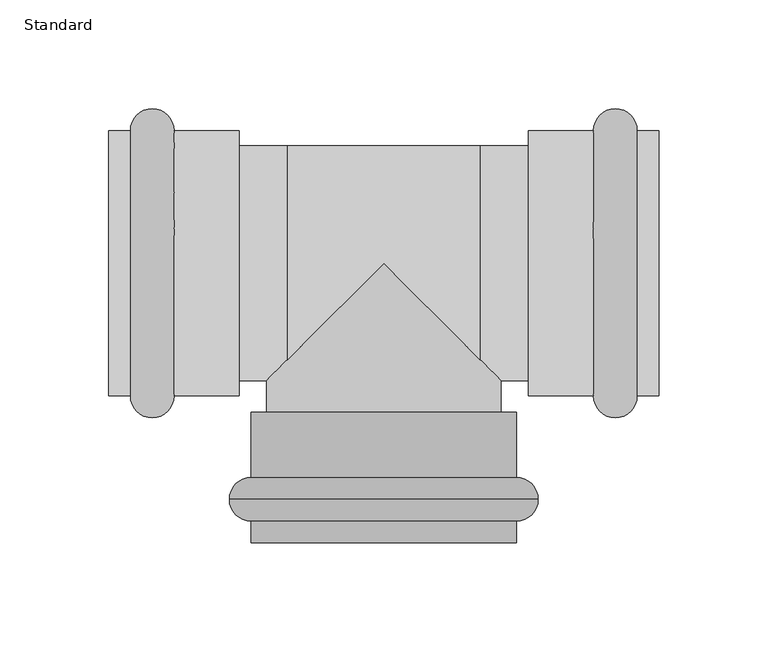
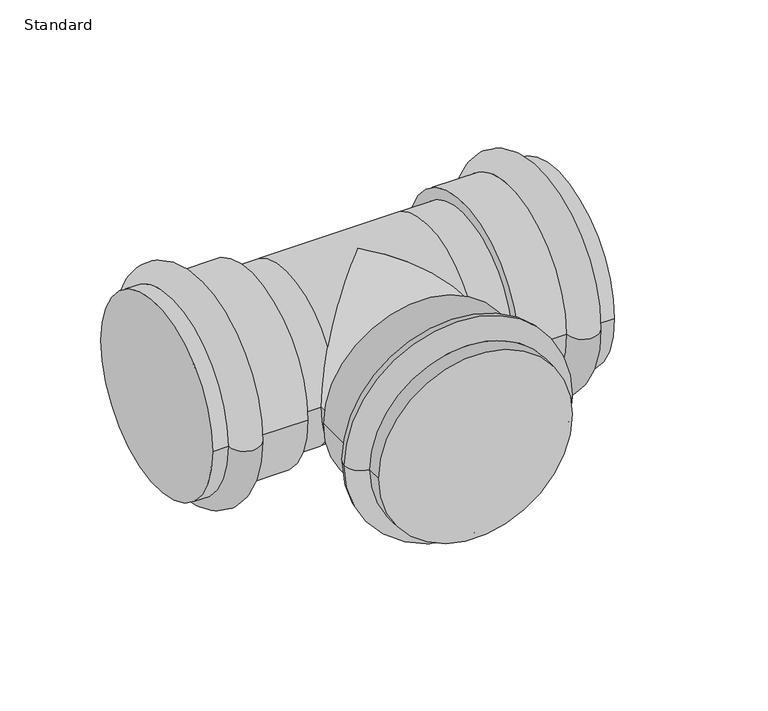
"""IFC4 building model written with IfcOpenShell, lengths in millimetres: pipe fitting geometry, T-Stück Edelstahl - Press : Standard."""

from ifc_helpers import new_model, si_unit, point, frame, origin, place, context, project, spatial, circle_curve, ellipse_curve, trimmed, source, transform, mapped, element, save
from ifc_brep_helpers import plane_surface, cylinder_surface, revolved_surface, advanced_brep


def standard_b74197ae(model_context):
    return source(origin(), model_context, "Body", "AdvancedBrep", [
        advanced_brep(
        [(-44.3333333, 54.0, 0.0), (44.3333333, 54.0, 0.0), (44.3333333, -44.3333333, -30.831081), (0.0, 0.0, -54.0), (-44.3333333, -44.3333333, -30.831081), (-44.3333333, -44.3333333, 30.831081), (0.0, 0.0, 54.0), (44.3333333, -44.3333333, 30.831081), (54.0, -54.0, 0.0), (54.0, -68.5, 0.0), (-54.0, -68.5, 0.0), (-54.0, -54.0, 0.0), (-66.5, 54.0, 0.0), (-66.5, -54.0, 0.0), (66.5, 54.0, 0.0), (66.5, -54.0, 0.0), (-116.5, 61.0, 0.0), (-96.5, 61.0, 0.0), (-96.5, -61.0, 0.0), (-116.5, -61.0, 0.0), (-126.5, -61.0, 0.0), (-126.5, 61.0, 0.0), (-66.5, -61.0, 0.0), (-66.5, 61.0, 0.0), (96.5, 61.0, 0.0), (116.5, 61.0, 0.0), (116.5, -61.0, 0.0), (96.5, -61.0, 0.0), (126.5, -61.0, 0.0), (126.5, 61.0, 0.0), (66.5, -61.0, 0.0), (66.5, 61.0, 0.0), (-71.0, -108.5, 0.0), (71.0, -108.5, 0.0), (61.0, -118.5, 0.0), (-61.0, -118.5, 0.0), (-61.0, -98.5, 0.0), (61.0, -98.5, 0.0), (61.0, -128.5, 0.0), (-61.0, -128.5, 0.0), (61.0, -68.5, 0.0), (-61.0, -68.5, 0.0)],
        [
            (0, 1),
            (1, 2, circle_curve(frame((44.3333333, 0.0, 0.0), z_axis=(-1.0, 0.0, 0.0), x_axis=(0.0, 1.0, 0.0)), 54.0)),
            (2, 3, ellipse_curve(frame((0.0, 0.0, 0.0), z_axis=(0.707106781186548, 0.7071067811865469, 0.0), x_axis=(0.707106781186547, -0.7071067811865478, 0.0)), 76.3675324, 54.0)),
            (3, 4, ellipse_curve(frame((0.0, 0.0, 0.0), z_axis=(-0.7071067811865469, 0.707106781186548, 0.0), x_axis=(0.7071067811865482, 0.7071067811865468, 0.0)), 76.3675324, 54.0)),
            (4, 0, circle_curve(frame((-44.3333333, 0.0, 0.0), z_axis=(1.0, 0.0, 0.0), x_axis=(0.0, 1.0, 0.0)), 54.0)),
            (0, 5, circle_curve(frame((-44.3333333, 0.0, 0.0), z_axis=(1.0, 0.0, 0.0), x_axis=(0.0, 1.0, 0.0)), 54.0)),
            (5, 6, ellipse_curve(frame((0.0, 0.0, 0.0), z_axis=(-0.7071067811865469, 0.707106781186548, 0.0), x_axis=(0.7071067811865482, 0.7071067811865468, 0.0)), 76.3675324, 54.0)),
            (6, 7, ellipse_curve(frame((0.0, 0.0, 0.0), z_axis=(0.707106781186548, 0.7071067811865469, 0.0), x_axis=(0.707106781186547, -0.7071067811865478, 0.0)), 76.3675324, 54.0)),
            (7, 1, circle_curve(frame((44.3333333, 0.0, 0.0), z_axis=(-1.0, 0.0, 0.0), x_axis=(0.0, 1.0, 0.0)), 54.0)),
            (8, 9),
            (9, 10, circle_curve(frame((0.0, -68.5, 0.0), z_axis=(0.0, 1.0, 0.0), x_axis=(1.0, 0.0, 0.0)), 54.0)),
            (10, 11),
            (11, 4, ellipse_curve(frame((0.0, 0.0, 0.0), z_axis=(0.7071067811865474, -0.7071067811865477, 0.0), x_axis=(-0.7071067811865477, -0.7071067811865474, 0.0)), 76.3675324, 54.0)),
            (2, 8, ellipse_curve(frame((0.0, 0.0, 0.0), z_axis=(-0.707106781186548, -0.7071067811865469, 0.0), x_axis=(0.7071067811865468, -0.7071067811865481, 0.0)), 76.3675324, 54.0)),
            (8, 7, ellipse_curve(frame((0.0, 0.0, 0.0), z_axis=(-0.707106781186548, -0.7071067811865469, 0.0), x_axis=(0.7071067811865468, -0.7071067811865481, 0.0)), 76.3675324, 54.0)),
            (5, 11, ellipse_curve(frame((0.0, 0.0, 0.0), z_axis=(0.7071067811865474, -0.7071067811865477, 0.0), x_axis=(-0.7071067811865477, -0.7071067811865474, 0.0)), 76.3675324, 54.0)),
            (10, 9, circle_curve(frame((0.0, -68.5, 0.0), z_axis=(0.0, 1.0, 0.0), x_axis=(1.0, 0.0, 0.0)), 54.0)),
            (12, 0),
            (11, 13),
            (13, 12, circle_curve(frame((-66.5, 0.0, 0.0), z_axis=(1.0, 0.0, 0.0), x_axis=(0.0, 0.0, -1.0)), 54.0)),
            (12, 13, circle_curve(frame((-66.5, 0.0, 0.0), z_axis=(1.0, 0.0, 0.0), x_axis=(0.0, 0.0, 1.0)), 54.0)),
            (1, 14),
            (14, 15, circle_curve(frame((66.5, 0.0, 0.0), z_axis=(-1.0, 0.0, 0.0), x_axis=(0.0, 0.0, -1.0)), 54.0)),
            (15, 8),
            (15, 14, circle_curve(frame((66.5, 0.0, 0.0), z_axis=(-1.0, 0.0, 0.0), x_axis=(0.0, 0.0, 1.0)), 54.0)),
            (16, 17, circle_curve(frame((-106.5, 61.0, 0.0), z_axis=(0.0, 0.0, -1.0), x_axis=(1.0, 0.0, 0.0)), 10.0)),
            (17, 18, circle_curve(frame((-96.5, 0.0, 0.0), z_axis=(-1.0, 0.0, 0.0), x_axis=(0.0, 1.0, 0.0)), 61.0)),
            (18, 19, circle_curve(frame((-106.5, -61.0, 0.0), z_axis=(0.0, 0.0, -1.0), x_axis=(1.0, 0.0, 0.0)), 10.0)),
            (19, 16, circle_curve(frame((-116.5, 0.0, 0.0), z_axis=(1.0, 0.0, 0.0), x_axis=(0.0, 1.0, 0.0)), 61.0)),
            (16, 19, circle_curve(frame((-116.5, 0.0, 0.0), z_axis=(1.0, 0.0, 0.0), x_axis=(0.0, 1.0, 0.0)), 61.0)),
            (18, 17, circle_curve(frame((-96.5, 0.0, 0.0), z_axis=(-1.0, 0.0, 0.0), x_axis=(0.0, 1.0, 0.0)), 61.0)),
            (20, 21, circle_curve(frame((-126.5, 0.0, 0.0), z_axis=(-1.0, 0.0, 0.0), x_axis=(0.0, 1.0, 0.0)), 61.0)),
            (21, 20, circle_curve(frame((-126.5, 0.0, 0.0), z_axis=(-1.0, 0.0, 0.0), x_axis=(0.0, 1.0, 0.0)), 61.0)),
            (22, 23, circle_curve(frame((-66.5, 0.0, 0.0), z_axis=(1.0, 0.0, 0.0), x_axis=(0.0, 1.0, 0.0)), 61.0)),
            (23, 22, circle_curve(frame((-66.5, 0.0, 0.0), z_axis=(1.0, 0.0, 0.0), x_axis=(0.0, 1.0, 0.0)), 61.0)),
            (21, 16),
            (19, 20),
            (22, 18),
            (17, 23),
            (24, 25, circle_curve(frame((106.5, 61.0, 0.0), z_axis=(0.0, 0.0, -1.0), x_axis=(1.0, 0.0, 0.0)), 10.0)),
            (25, 26, circle_curve(frame((116.5, 0.0, 0.0), z_axis=(-1.0, 0.0, 0.0), x_axis=(0.0, 1.0, 0.0)), 61.0)),
            (26, 27, circle_curve(frame((106.5, -61.0, 0.0), z_axis=(0.0, 0.0, -1.0), x_axis=(1.0, 0.0, 0.0)), 10.0)),
            (27, 24, circle_curve(frame((96.5, 0.0, 0.0), z_axis=(1.0, 0.0, 0.0), x_axis=(0.0, 1.0, 0.0)), 61.0)),
            (24, 27, circle_curve(frame((96.5, 0.0, 0.0), z_axis=(1.0, 0.0, 0.0), x_axis=(0.0, 1.0, 0.0)), 61.0)),
            (26, 25, circle_curve(frame((116.5, 0.0, 0.0), z_axis=(-1.0, 0.0, 0.0), x_axis=(0.0, 1.0, 0.0)), 61.0)),
            (28, 29, circle_curve(frame((126.5, 0.0, 0.0), z_axis=(1.0, 0.0, 0.0), x_axis=(0.0, 1.0, 0.0)), 61.0)),
            (29, 28, circle_curve(frame((126.5, 0.0, 0.0), z_axis=(1.0, 0.0, 0.0), x_axis=(0.0, 1.0, 0.0)), 61.0)),
            (30, 31, circle_curve(frame((66.5, 0.0, 0.0), z_axis=(-1.0, 0.0, 0.0), x_axis=(0.0, 1.0, 0.0)), 61.0)),
            (31, 30, circle_curve(frame((66.5, 0.0, 0.0), z_axis=(-1.0, 0.0, 0.0), x_axis=(0.0, 1.0, 0.0)), 61.0)),
            (28, 26),
            (25, 29),
            (31, 24),
            (27, 30),
            (32, 33, circle_curve(frame((0.0, -108.5, 0.0), z_axis=(0.0, -1.0, 0.0), x_axis=(1.0, 0.0, 0.0)), 71.0)),
            (33, 34, circle_curve(frame((61.0, -108.5, 0.0), z_axis=(0.0, 0.0, -1.0), x_axis=(1.0, 0.0, 0.0)), 10.0)),
            (34, 35, circle_curve(frame((0.0, -118.5, 0.0), z_axis=(0.0, 1.0, 0.0), x_axis=(1.0, 0.0, 0.0)), 61.0)),
            (35, 32, circle_curve(frame((-61.0, -108.5, 0.0), z_axis=(0.0, 0.0, -1.0), x_axis=(-1.0, 0.0, 0.0)), 10.0)),
            (33, 32, circle_curve(frame((0.0, -108.5, 0.0), z_axis=(0.0, -1.0, 0.0), x_axis=(1.0, 0.0, 0.0)), 71.0)),
            (35, 34, circle_curve(frame((0.0, -118.5, 0.0), z_axis=(0.0, 1.0, 0.0), x_axis=(1.0, 0.0, 0.0)), 61.0)),
            (32, 36, circle_curve(frame((-61.0, -108.5, 0.0), z_axis=(0.0, 0.0, -1.0), x_axis=(-1.0, 0.0, 0.0)), 10.0)),
            (36, 37, circle_curve(frame((0.0, -98.5, 0.0), z_axis=(0.0, -1.0, 0.0), x_axis=(1.0, 0.0, 0.0)), 61.0)),
            (37, 33, circle_curve(frame((61.0, -108.5, 0.0), z_axis=(0.0, 0.0, -1.0), x_axis=(1.0, 0.0, 0.0)), 10.0)),
            (37, 36, circle_curve(frame((0.0, -98.5, 0.0), z_axis=(0.0, -1.0, 0.0), x_axis=(1.0, 0.0, 0.0)), 61.0)),
            (38, 39, circle_curve(frame((0.0, -128.5, 0.0), z_axis=(0.0, -1.0, 0.0), x_axis=(-1.0, 0.0, 0.0)), 61.0)),
            (39, 38, circle_curve(frame((0.0, -128.5, 0.0), z_axis=(0.0, -1.0, 0.0), x_axis=(-1.0, 0.0, 0.0)), 61.0)),
            (40, 41, circle_curve(frame((0.0, -68.5, 0.0), z_axis=(0.0, 1.0, 0.0), x_axis=(-1.0, 0.0, 0.0)), 61.0)),
            (41, 40, circle_curve(frame((0.0, -68.5, 0.0), z_axis=(0.0, 1.0, 0.0), x_axis=(-1.0, 0.0, 0.0)), 61.0)),
            (39, 35),
            (34, 38),
            (40, 37),
            (36, 41),
        ],
        [
            cylinder_surface(frame((-44.3333333, 0.0, 0.0), z_axis=(1.0, 0.0, 0.0), x_axis=(0.0, 1.0, 0.0)), 54.0),
            cylinder_surface(frame((0.0, 0.0, 0.0), z_axis=(0.0, -1.0, 0.0), x_axis=(1.0, 0.0, 0.0)), 54.0),
            cylinder_surface(frame((-66.5, 0.0, 0.0), z_axis=(1.0, 0.0, 0.0), x_axis=(0.0, 0.0, -1.0)), 54.0),
            cylinder_surface(frame((-66.5, 0.0, 0.0), z_axis=(1.0, 0.0, 0.0), x_axis=(0.0, 0.0, 1.0)), 54.0),
            cylinder_surface(frame((44.3333333, 0.0, 0.0), z_axis=(1.0, 0.0, 0.0), x_axis=(0.0, 0.0, -1.0)), 54.0),
            cylinder_surface(frame((44.3333333, 0.0, 0.0), z_axis=(1.0, 0.0, 0.0), x_axis=(0.0, 0.0, 1.0)), 54.0),
            revolved_surface(trimmed(ellipse_curve(frame((-106.5, 61.0, 0.0), z_axis=(0.0, 0.0, 1.0), x_axis=(1.0, 0.0, 0.0)), 10.0, 10.0), [point((-96.5, 61.0, 0.0))], [point((-116.5, 61.0, 0.0))], True, "CARTESIAN"), (-135.5750001, 0.0, 0.0), (-1.0, 0.0, 0.0)),
            plane_surface(frame((-126.5, 61.0, 0.0), z_axis=(-1.0, 0.0, 0.0), x_axis=(0.0, 0.0, -1.0))),
            plane_surface(frame((-66.5, 61.0, 0.0), z_axis=(1.0, 0.0, 0.0), x_axis=(0.0, 0.0, 1.0))),
            cylinder_surface(frame((-126.5, 0.0, 0.0), z_axis=(1.0, 0.0, 0.0), x_axis=(0.0, 1.0, 0.0)), 61.0),
            revolved_surface(trimmed(ellipse_curve(frame((106.5, 61.0, 0.0), z_axis=(0.0, 0.0, 1.0), x_axis=(1.0, 0.0, 0.0)), 10.0, 10.0), [point((116.5, 61.0, 0.0))], [point((96.5, 61.0, 0.0))], True, "CARTESIAN"), (131.592996, 0.0, 0.0), (-1.0, 0.0, 0.0)),
            plane_surface(frame((126.5, 61.0, 0.0), z_axis=(1.0, 0.0, 0.0), x_axis=(0.0, 0.0, 1.0))),
            plane_surface(frame((66.5, 61.0, 0.0), z_axis=(-1.0, 0.0, 0.0), x_axis=(0.0, 0.0, -1.0))),
            cylinder_surface(frame((66.5, 0.0, 0.0), z_axis=(1.0, 0.0, 0.0), x_axis=(0.0, 1.0, 0.0)), 61.0),
            revolved_surface(trimmed(ellipse_curve(frame((61.0, -108.5, 0.0), z_axis=(0.0, 0.0, 1.0), x_axis=(1.0, 0.0, 0.0)), 10.0, 10.0), [point((51.0, -108.5, 0.0))], [point((71.0, -108.5, 0.0))], True, "CARTESIAN"), (0.0, -71.7908327, 0.0), (0.0, 1.0, 0.0)),
            revolved_surface(trimmed(ellipse_curve(frame((61.0, -108.5, 0.0), z_axis=(0.0, 0.0, 1.0), x_axis=(1.0, 0.0, 0.0)), 10.0, 10.0), [point((71.0, -108.5, 0.0))], [point((51.0, -108.5, 0.0))], True, "CARTESIAN"), (0.0, -71.7908327, 0.0), (0.0, 1.0, 0.0)),
            plane_surface(frame((-61.0, -128.5, 0.0), z_axis=(0.0, -1.0, 0.0), x_axis=(0.0, 0.0, -1.0))),
            plane_surface(frame((-61.0, -68.5, 0.0), z_axis=(0.0, 1.0, 0.0), x_axis=(0.0, 0.0, 1.0))),
            cylinder_surface(frame((0.0, -128.5, 0.0), z_axis=(0.0, 1.0, 0.0), x_axis=(-1.0, 0.0, 0.0)), 61.0),
        ],
        [
            (0, [[1, 2, 3, 4, 5]]),
            (0, [[-1, 6, 7, 8, 9]]),
            (1, [[10, 11, 12, 13, -4, -3, 14]]),
            (1, [[-10, 15, -8, -7, 16, -12, 17]]),
            (2, [[18, -5, -13, 19, 20]]),
            (3, [[-18, 21, -19, -16, -6]]),
            (4, [[22, 23, 24, -14, -2]]),
            (5, [[-22, -9, -15, -24, 25]]),
            (6, [[26, 27, 28, 29]]),
            (6, [[-26, 30, -28, 31]]),
            (7, [[32, 33]]),
            (8, [[34, 35], [-20, -21]]),
            (9, [[-33, 36, -29, 37]]),
            (9, [[-34, 38, -27, 39]]),
            (9, [[-32, -37, -30, -36]]),
            (9, [[-35, -39, -31, -38]]),
            (10, [[40, 41, 42, 43]]),
            (10, [[-40, 44, -42, 45]]),
            (11, [[46, 47]]),
            (12, [[48, 49], [-23, -25]]),
            (13, [[-46, 50, -41, 51]]),
            (13, [[-49, 52, -43, 53]]),
            (13, [[-47, -51, -45, -50]]),
            (13, [[-48, -53, -44, -52]]),
            (14, [[54, 55, 56, 57]]),
            (14, [[58, -57, 59, -55]]),
            (15, [[-54, 60, 61, 62]]),
            (15, [[-58, -62, 63, -60]]),
            (16, [[64, 65]]),
            (17, [[66, 67], [-11, -17]]),
            (18, [[-65, 68, -56, 69]]),
            (18, [[-66, 70, -61, 71]]),
            (18, [[-64, -69, -59, -68]]),
            (18, [[-67, -71, -63, -70]]),
        ],
    ),
    ])


if __name__ == "__main__":
    model = new_model("IFC4")
    model_context = context("Model", 3, world=origin())
    ifc_project = project(units=[si_unit("LENGTHUNIT", "METRE", prefix="MILLI")], contexts=[model_context])
    site = spatial("IfcSite", under=ifc_project)
    building = spatial("IfcBuilding", under=site)
    placement = place(None, origin())
    standard_shape = standard_b74197ae(model_context)
    element("IfcPipeFitting", 1, ObjectType="T-Stück Edelstahl - Press : Standard", at=placement, inside=building, context=model_context, shape_type="MappedRepresentation", body=[
        mapped(standard_shape, transform((0.0, 0.0, 0.0), x_axis=(1.0, 0.0, 0.0), y_axis=(0.0, 1.0, 0.0), z_axis=(0.0, 0.0, 1.0))),
    ])
    save(model, "model.ifc")
